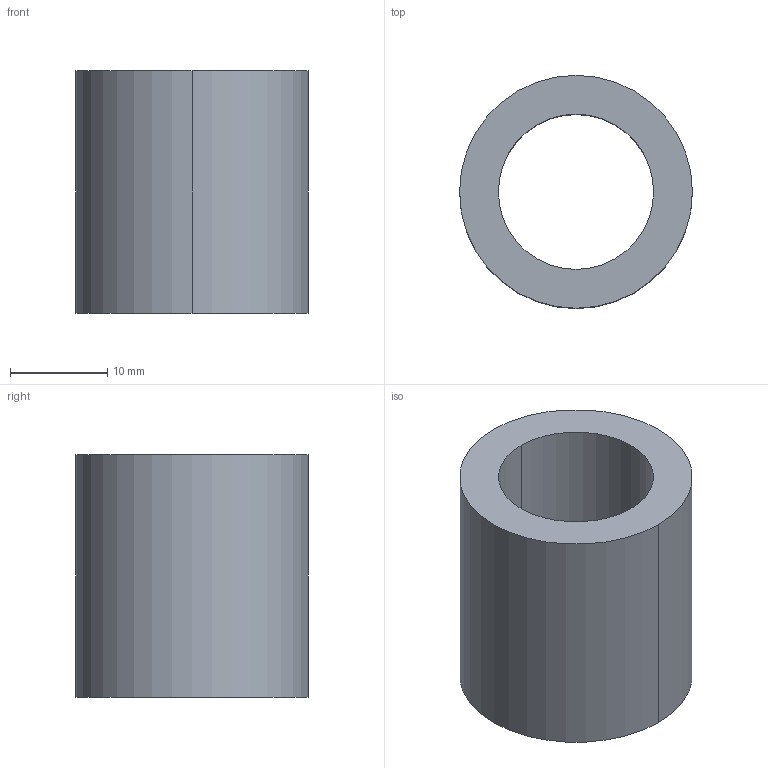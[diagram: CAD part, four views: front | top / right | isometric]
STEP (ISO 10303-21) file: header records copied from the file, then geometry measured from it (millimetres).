
FILE_DESCRIPTION(/* description */ (''),/* implementation_level */ '2;1');
FILE_NAME(/* name */ '3d_tgsf16-25_00372_r00.stp',/* time_stamp */ '2011-01-10T14:09:01+09:00',/* author */ ('MISUMI'),/* organization */ (''),/* preprocessor_version */ 'ST-DEVELOPER v11',/* originating_system */ 'UGS - NX 5.0',/* authorisation */ '');
FILE_SCHEMA (('CONFIG_CONTROL_DESIGN'));
Length unit declared in the file: millimetre
Products named in the file (1): 3d_tgsf16-25_00372_r00
Bounding box: 24 x 24 x 25 mm (x, y, z)
Volume: 6283.2 mm3; surface area: 3644.2 mm2
Topology: 1 solids, 1 shells, 6 faces, 12 edges, 8 vertices
Faces by surface type: cylinder 4, plane 2
Entity records: 254 total; most frequent: DIRECTION 34, CARTESIAN_POINT 27, ORIENTED_EDGE 24, AXIS2_PLACEMENT_3D 15, EDGE_CURVE 12, EDGE_LOOP 8, CIRCLE 8, VERTEX_POINT 8
